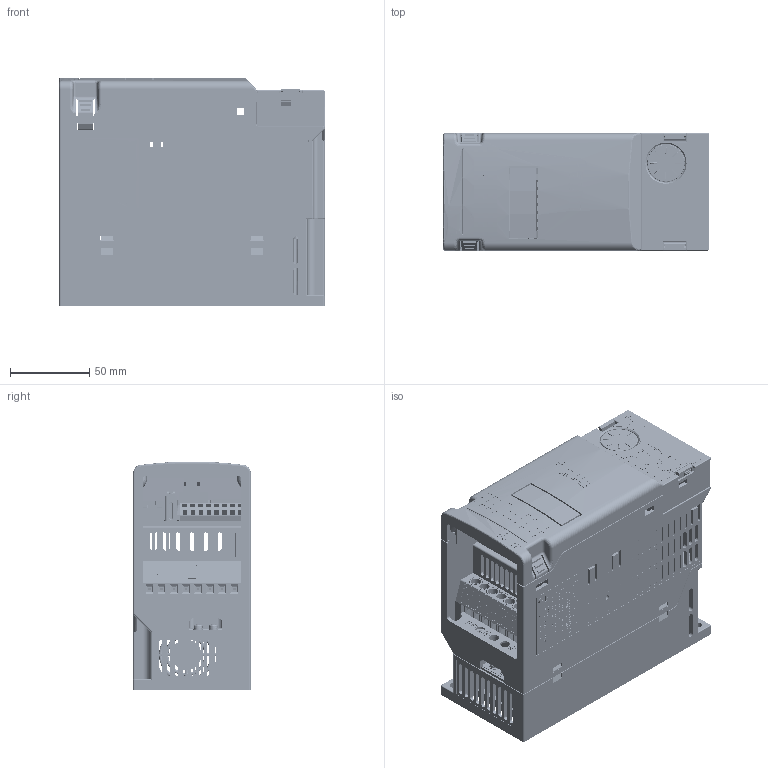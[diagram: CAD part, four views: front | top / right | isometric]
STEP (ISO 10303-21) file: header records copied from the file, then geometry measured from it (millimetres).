
FILE_DESCRIPTION((''),'2;1');
FILE_NAME('C:\Documents and Settings\Administrator\袤醱\SE3-A(褫莞).stp','2018-03-09T11:05:35',('Administrator'),(''),'Autodesk Inventor 8','Autodesk Inventor 8','');
FILE_SCHEMA(('AUTOMOTIVE_DESIGN { 1 0 10303 214 1 1 1 1 }'));
Length unit declared in the file: millimetre
Products named in the file (58): A遺郪蕾芞; 023机种散热器; 鍼踢; _X2_87BA4E1D_X0__M3_S_W5_S_W16_SS980P08002; 呿蝶盓傅; ﾂﾝﾖM3｡ﾁ5｡ﾁ12; 主回路板组立_220V-方案2; 023翋隙繚啣; 酘耜啣-源偶2; 衵耜啣; TJ952-06_ASM_38_ASM; TJ952-06_1_23; TJ952-06_2_ASM_12_ASM; TJ952-06_M3_BLOCK_1; TJ952-06_SCREW_7; TJ952-06_3_ASM_11_ASM; TJ952-06_3_1_19; 952-06-TR; 紱釬ん-諷秶啣郪蕾; 紱釬ん郪蕾; 紱釬ん價啣; SC3-A_X2_65CB94AE5E3D_X0_; linker_YH-SMT01_SS980T03211C; 狟裔; E1-5028AHR1; PU302俋褲; PU302情臚羲壽霧啣; ｱ｡ﾄ､ｿｪｹﾘﾃ嵓蘋ﾐﾞｸﾄ; 薄膜开关铭板字符; 驱动板显示器字符（1; Part2; 諷秶啣郪蕾; 諷秶啣價啣; 蟀諉璃_YH-55-05-5521-8P_SS980P11001; 尥翹蟀諉ん_X2_8FDE63A54EF6_X0__SS880P15070A; 8P; 3P; 樟萇ん_PCH-124D2H_X2_6CF0514B7EE775355668_X0_; 價啣傷赽; 2P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
Assembly tree (72 placements, depth 5):
  A遺郪蕾芞
    023机种散热器
    鍼踢
    _X2_87BA4E1D_X0__M3_S_W5_S_W16_SS980P08002
    呿蝶盓傅
    ﾂﾝﾖM3｡ﾁ5｡ﾁ12
    主回路板组立_220V-方案2
      023翋隙繚啣
      酘耜啣-源偶2
      衵耜啣
      TJ952-06_ASM_38_ASM
        TJ952-06_1_23
        TJ952-06_2_ASM_12_ASM  x6
          TJ952-06_M3_BLOCK_1
          TJ952-06_SCREW_7
        TJ952-06_3_ASM_11_ASM  x4
          TJ952-06_3_1_19
          TJ952-06_M3_BLOCK_1
          TJ952-06_SCREW_7
        952-06-TR  x4
    紱釬ん-諷秶啣郪蕾
      紱釬ん郪蕾
        紱釬ん價啣
        SC3-A_X2_65CB94AE5E3D_X0_
        linker_YH-SMT01_SS980T03211C
        狟裔
        E1-5028AHR1
        PU302俋褲
        PU302情臚羲壽霧啣
          ｱ｡ﾄ､ｿｪｹﾘﾃ嵓蘋ﾐﾞｸﾄ
          薄膜开关铭板字符
          驱动板显示器字符（1
          Part2
      諷秶啣郪蕾
        諷秶啣價啣
        蟀諉璃_YH-55-05-5521-8P_SS980P11001
        尥翹蟀諉ん_X2_8FDE63A54EF6_X0__SS880P15070A
        8P  x2
        3P
        樟萇ん_PCH-124D2H_X2_6CF0514B7EE775355668_X0_
        價啣傷赽
        2P
        諷秶啣諉華盓翐
      24pin6740-xxmopx-xxx-x-a
    瑞圮裔
    奻裔
    M3×12_S0803312
      NF E 25-510 CL 5 x 11B
      NF E 25-515  W W3B
      UNI EN ISO 7045  H  (ぱ籵蹟恇) M3 x  12 - 4.8 - H
    畢雄羲壽趼睫
    儂笱霧齪
    呿蝶笢褲
    葩璃 呿蝶菁釱
    劑逄霧啣
    翋隙繚泂祧
    M3℅6_S0501306  x2
      UNI EN ISO 7045  H  (ぱ籵蹟恇) M3 x  6 - 4.8 - H
      NF E 25-510 CL 5 x 11C
      NF E 25-515  W W3C
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Bounding box: 167 x 74.1 x 144 mm (x, y, z)
Volume: 420048.8 mm3; surface area: 487032.6 mm2
Topology: 112 solids, 125 shells, 21845 faces, 60988 edges, 40090 vertices
Faces by surface type: plane 13005, cylinder 5845, bspline 2446, cone 488, sphere 61
Full cylindrical faces by diameter (mm): 0.4 x3
Entity records: 683958 total; most frequent: CARTESIAN_POINT 191655, ORIENTED_EDGE 108072, DIRECTION 92436, EDGE_CURVE 54062, VECTOR 38726, LINE 38726, VERTEX_POINT 35667, AXIS2_PLACEMENT_3D 26855
